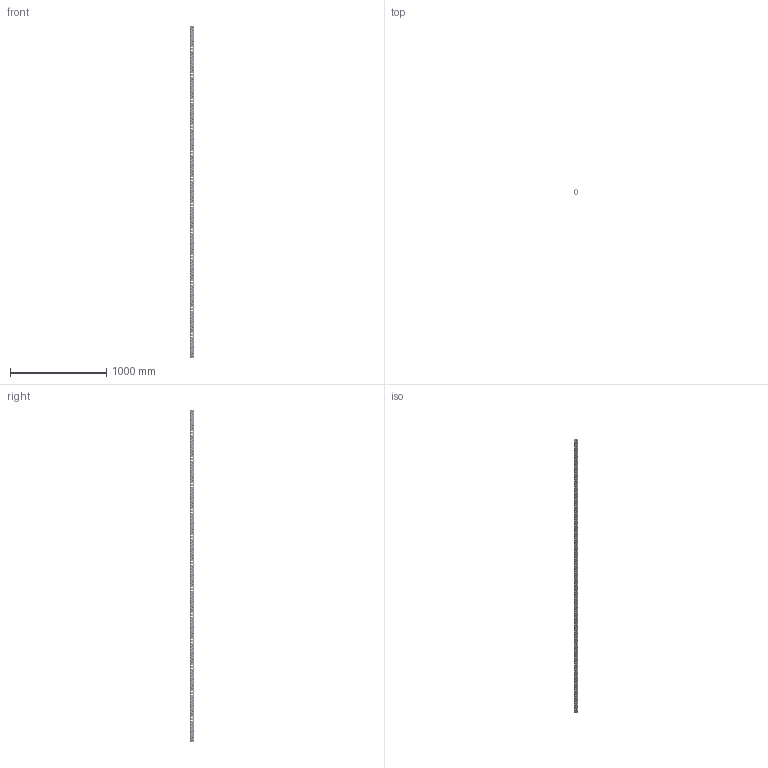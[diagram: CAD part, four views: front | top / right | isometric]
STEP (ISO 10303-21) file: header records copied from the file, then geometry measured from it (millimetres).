
FILE_DESCRIPTION(('CATIA V5 STEP Exchange'),'2;1');
FILE_NAME('U:\Room\唐宝山\EGT002\46-01-010344-01-EGT002-3448.stp','2021-08-24T09:38:40+00:00',('none'),('none'),'CATIA Version 5 Release 21 GA (IN-10)','CATIA V5 STEP AP203','none');
FILE_SCHEMA(('CONFIG_CONTROL_DESIGN'));
Products named in the file (1): 46-01-010344-01-EGT002-3448
Bounding box: 50 x 50 x 3448 mm (x, y, z)
Volume: 2456861.1 mm3; surface area: 1183181 mm2
Topology: 1 solids, 1 shells, 4684 faces, 12896 edges, 7984 vertices
Faces by surface type: cone 2760, cylinder 1898, plane 26
Entity records: 199106 total; most frequent: CARTESIAN_POINT 86425, ORIENTED_EDGE 25792, DIRECTION 17894, EDGE_CURVE 12896, AXIS2_PLACEMENT_3D 8251, VERTEX_POINT 7984, EDGE_LOOP 6296, VECTOR 4960
